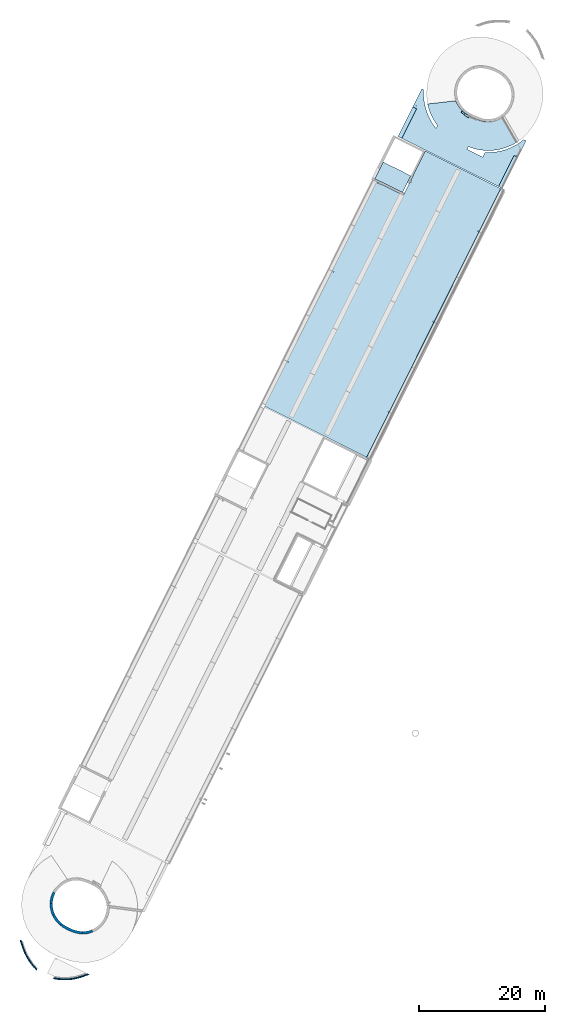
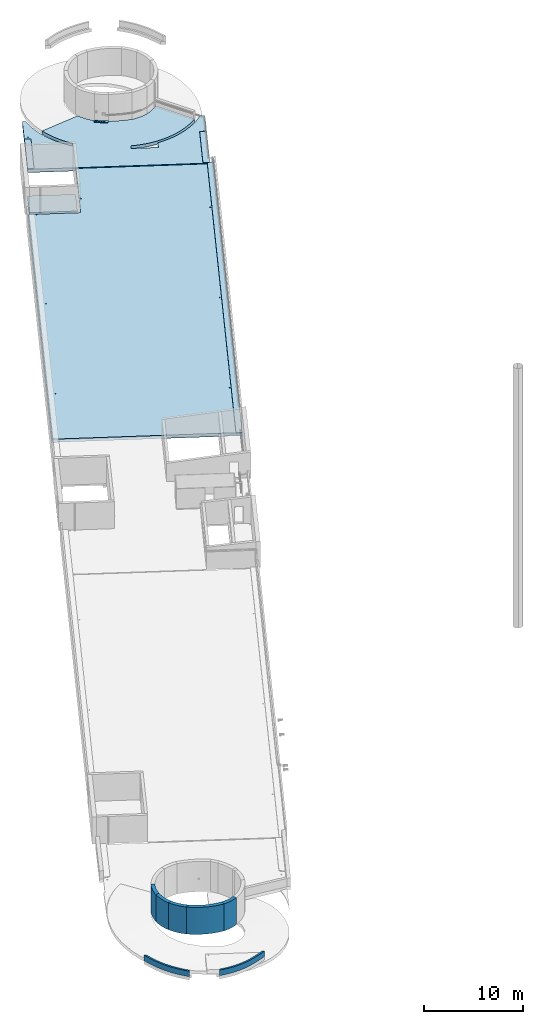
# One storey, part 3 of 34: 7 slabs, 7 walls, 17 openings.
"""IFC2X3 building model written with IfcOpenShell, lengths in metres."""

from ifc_helpers import new_model, entity, si_unit, converted_unit, derived_unit, direction, frame, frame_2d, origin, origin_2d_with_axis, place, context, subcontext, project, spatial, polyline, circle_curve, parameter, trimmed, segment, composite_curve, rectangle, circle, outline, extrude, material, layer, layer_set, layer_usage, type_object, element, save


model = new_model("IFC2X3")

# Units and contexts
model_context = context("Model", 3, precision=1e-05, world=origin(), true_north=direction((0.894925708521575, 0.446215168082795)))
context_of_model = context(None, 3, precision=1e-05, world=origin(), true_north=direction((0.894925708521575, 0.446215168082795)))
body_context = subcontext(model_context, "Body", "Model", "MODEL_VIEW")
ifc_project = project(units=[si_unit("LENGTHUNIT", "METRE"), si_unit("AREAUNIT", "SQUARE_METRE"), si_unit("VOLUMEUNIT", "CUBIC_METRE"), converted_unit("PLANEANGLEUNIT", "DEGREE", entity("IfcRatioMeasure", 0.0174532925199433), si_unit("PLANEANGLEUNIT", "RADIAN"), dimensions=[0, 0, 0, 0, 0, 0, 0]), si_unit("MASSUNIT", "GRAM", prefix="KILO"), si_unit("TIMEUNIT", "SECOND"), si_unit("FREQUENCYUNIT", "HERTZ"), si_unit("THERMODYNAMICTEMPERATUREUNIT", "DEGREE_CELSIUS"), derived_unit("THERMALTRANSMITTANCEUNIT", [(si_unit("MASSUNIT", "GRAM", prefix="KILO"), 1), (si_unit("THERMODYNAMICTEMPERATUREUNIT", "KELVIN"), -1), (si_unit("TIMEUNIT", "SECOND"), -3)]), derived_unit("VOLUMETRICFLOWRATEUNIT", [(si_unit("LENGTHUNIT", "METRE"), 3), (si_unit("TIMEUNIT", "SECOND"), -1)]), si_unit("ELECTRICCURRENTUNIT", "AMPERE"), si_unit("ELECTRICVOLTAGEUNIT", "VOLT"), si_unit("POWERUNIT", "WATT"), si_unit("FORCEUNIT", "NEWTON", prefix="KILO"), si_unit("ILLUMINANCEUNIT", "LUX"), si_unit("LUMINOUSFLUXUNIT", "LUMEN"), si_unit("LUMINOUSINTENSITYUNIT", "CANDELA"), si_unit("PRESSUREUNIT", "PASCAL")], contexts=[model_context, context_of_model])

# Site, building, storey
site_placement = place(None, frame((218.228324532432, 584.720189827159, 0.0), z_axis=(0.0, 0.0, 1.0), x_axis=(0.446215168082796, 0.894925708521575, 0.0)))
site = spatial("IfcSite", under=ifc_project, at=site_placement, Name="Default", CompositionType="ELEMENT")
building_placement = place(site_placement, origin())
building = spatial("IfcBuilding", under=site, at=building_placement, CompositionType="ELEMENT")
storey_placement = place(building_placement, frame((0.0, 0.0, 8.61)))
storey = spatial("IfcBuildingStorey", under=building, at=storey_placement, Name="2 - Piano Secondo", CompositionType="ELEMENT", Elevation=8.61)

# Slab, openings
ifc_material_1 = material(Name="Default - Calcestruzzo")
ifc_layer_1 = layer(ifc_material_1, 0.1)
ifc_material_2 = material(Name="Calcestruzzo")
ifc_layer_2 = layer(ifc_material_2, 0.3)
ifc_layer_set_1 = layer_set([ifc_layer_1, ifc_layer_2], Name="Pavimento:Predal Cementizio - 40 cm")
ifc_layer_usage_1 = layer_usage(ifc_layer_set_1, "AXIS3", "POSITIVE", 0.0)
slab_1_placement = place(storey_placement, frame((11.1942149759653, -13.2110789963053, -0.399999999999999)))
slab_1 = element("IfcSlab", 1, at=slab_1_placement, inside=storey, material=ifc_layer_usage_1, Name="Pavimento:Predal Cementizio - 40 cm", ObjectType="Pavimento:Predal Cementizio - 40 cm", PredefinedType="FLOOR", context=body_context, shape_type="SweptSolid", body=[
    extrude(outline(polyline([(23.8208610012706, -9.67000000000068), (23.8208610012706, 9.67000000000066), (-15.9908610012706, 9.67000000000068), (-15.9908610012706, 4.34000000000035), (-23.8208610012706, 4.34000000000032), (-23.8208610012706, -9.67000000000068), (23.8208610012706, -9.67000000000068)])), frame((23.8208610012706, 9.67000000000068, 0.399999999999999), z_axis=(0.0, 0.0, -1.0), x_axis=(-1.0, 0.0, 0.0)), (0.0, 0.0, 1.0), 0.4),
])
opening_1_placement = place(slab_1_placement, frame((42.3017220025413, 13.860000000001, 0.399999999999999)))
element("IfcOpeningElement", 2, at=opening_1_placement, cuts=slab_1, Name="Pavimento:Predal Cementizio - 40 cm:2", ObjectType="Opening", context=body_context, shape_type="SweptSolid", body=[
    extrude(circle(Radius=0.085, at=origin_2d_with_axis()), frame((0.0, 0.0, 0.0), z_axis=(0.0, 0.0, -1.0), x_axis=(1.0, 0.0, 0.0)), (0.0, 0.0, 1.0), 0.4),
])
opening_2_placement = place(slab_1_placement, frame((39.9641280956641, 0.8300000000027, 0.399999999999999)))
element("IfcOpeningElement", 3, at=opening_2_placement, cuts=slab_1, Name="Pavimento:Predal Cementizio - 40 cm:3", ObjectType="Opening", context=body_context, shape_type="SweptSolid", body=[
    extrude(circle(Radius=0.0600000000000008, at=origin_2d_with_axis()), frame((0.0, 0.0, 0.0), z_axis=(0.0, 0.0, -1.0), x_axis=(1.0, 0.0, 0.0)), (0.0, 0.0, 1.0), 0.4),
])
opening_3_placement = place(slab_1_placement, frame((23.9722811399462, 0.830000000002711, 0.399999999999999)))
element("IfcOpeningElement", 4, at=opening_3_placement, cuts=slab_1, Name="Pavimento:Predal Cementizio - 40 cm:4", ObjectType="Opening", context=body_context, shape_type="SweptSolid", body=[
    extrude(circle(Radius=0.0600000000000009, at=origin_2d_with_axis()), frame((0.0, 0.0, 0.0), z_axis=(0.0, 0.0, -1.0), x_axis=(1.0, 0.0, 0.0)), (0.0, 0.0, 1.0), 0.4),
])
opening_4_placement = place(slab_1_placement, frame((7.98161454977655, 0.830000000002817, 0.399999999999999)))
element("IfcOpeningElement", 5, at=opening_4_placement, cuts=slab_1, Name="Pavimento:Predal Cementizio - 40 cm:5", ObjectType="Opening", context=body_context, shape_type="SweptSolid", body=[
    extrude(circle(Radius=0.0600000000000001, at=origin_2d_with_axis()), frame((0.0, 0.0, 0.0), z_axis=(0.0, 0.0, -1.0), x_axis=(1.0, 0.0, 0.0)), (0.0, 0.0, 1.0), 0.4),
])
opening_5_placement = place(slab_1_placement, frame((7.98161454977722, 18.5100000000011, 0.399999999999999)))
element("IfcOpeningElement", 6, at=opening_5_placement, cuts=slab_1, Name="Pavimento:Predal Cementizio - 40 cm:6", ObjectType="Opening", context=body_context, shape_type="SweptSolid", body=[
    extrude(circle(Radius=0.0600000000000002, at=origin_2d_with_axis()), frame((0.0, 0.0, 0.0), z_axis=(0.0, 0.0, -1.0), x_axis=(1.0, 0.0, 0.0)), (0.0, 0.0, 1.0), 0.4),
])
opening_6_placement = place(slab_1_placement, frame((23.9722811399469, 18.5100000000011, 0.399999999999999)))
element("IfcOpeningElement", 7, at=opening_6_placement, cuts=slab_1, Name="Pavimento:Predal Cementizio - 40 cm:7", ObjectType="Opening", context=body_context, shape_type="SweptSolid", body=[
    extrude(circle(Radius=0.0600000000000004, at=origin_2d_with_axis()), frame((0.0, 0.0, 0.0), z_axis=(0.0, 0.0, -1.0), x_axis=(1.0, 0.0, 0.0)), (0.0, 0.0, 1.0), 0.4),
])
opening_7_placement = place(slab_1_placement, frame((39.6992220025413, 18.510000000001, 0.399999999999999)))
element("IfcOpeningElement", 8, at=opening_7_placement, cuts=slab_1, Name="Pavimento:Predal Cementizio - 40 cm:8", ObjectType="Opening", context=body_context, shape_type="SweptSolid", body=[
    extrude(circle(Radius=0.0599999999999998, at=origin_2d_with_axis()), frame((0.0, 0.0, 0.0), z_axis=(0.0, 0.0, -1.0), x_axis=(1.0, 0.0, 0.0)), (0.0, 0.0, 1.0), 0.4),
])

ifc_layer_3 = layer(ifc_material_1, 0.1)
ifc_layer_4 = layer(ifc_material_2, 0.3)
ifc_layer_set_2 = layer_set([ifc_layer_3, ifc_layer_4], Name="Pavimento:In opera Cementizio - 40 cm")
ifc_layer_usage_2 = layer_usage(ifc_layer_set_2, "AXIS3", "POSITIVE", 0.0)
slab_2_placement = place(storey_placement, frame((58.9659369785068, -12.8010789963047, -0.399999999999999)))
slab_2 = element("IfcSlab", 9, at=slab_2_placement, inside=storey, material=ifc_layer_usage_2, Name="Pavimento:In opera Cementizio - 40 cm", ObjectType="Pavimento:In opera Cementizio - 40 cm", PredefinedType="FLOOR", context=body_context, shape_type="SweptSolid", body=[
    extrude(outline(composite_curve([segment(polyline([(5.23557605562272, -9.25999853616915), (5.23557605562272, 9.25999853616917)]), True, "CONTINUOUS"), segment(polyline([(5.23557605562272, 9.25999853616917), (2.16597680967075, 9.2482542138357)]), True, "CONTINUOUS"), segment(polyline([(2.16597680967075, 9.2482542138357), (-3.23441502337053, 9.25809498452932)]), True, "CONTINUOUS"), segment(polyline([(-3.23441502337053, 9.25809498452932), (-3.23441502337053, 8.91658000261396)]), True, "CONTINUOUS"), segment(trimmed(circle_curve(frame_2d((-7.00685209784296, 0.21497279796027), x_axis=(-1.0, 0.0)), 9.48415781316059), [parameter(232.209278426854)], [parameter(246.561658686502)], True, "PARAMETER"), False, "CONTINUOUS"), segment(trimmed(circle_curve(frame_2d((-6.89135073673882, 0.575748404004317), x_axis=(-1.0, 0.0)), 9.12919934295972), [parameter(204.903689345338)], [parameter(231.394611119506)], True, "PARAMETER"), False, "CONTINUOUS"), segment(polyline([(1.3889873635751, 4.42000146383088), (0.890051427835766, 4.42000146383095)]), True, "CONTINUOUS"), segment(trimmed(circle_curve(frame_2d((-6.89135073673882, 0.575748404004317), x_axis=(-1.0, 0.0)), 8.67919934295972), [parameter(206.290794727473)], [parameter(231.379488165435)], True, "PARAMETER"), True, "CONTINUOUS"), segment(polyline([(-1.47414740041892, 7.35678145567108), (-3.93807030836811, 3.56563351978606)]), True, "CONTINUOUS"), segment(trimmed(circle_curve(frame_2d((-7.1221888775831, 0.559388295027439), x_axis=(-1.0, 0.0)), 4.37905485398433), [parameter(198.450284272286)], [parameter(223.354121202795)], True, "PARAMETER"), False, "CONTINUOUS"), segment(trimmed(circle_curve(frame_2d((-8.01100284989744, 0.416483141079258), x_axis=(-1.0, 0.0)), 5.26942505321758), [parameter(181.402417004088)], [parameter(196.865483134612)], True, "PARAMETER"), False, "CONTINUOUS"), segment(trimmed(circle_curve(frame_2d((-17.7015116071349, 0.726641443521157), x_axis=(-1.0, 0.0)), 14.9594527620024), [parameter(169.929344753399)], [parameter(179.30600254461)], True, "PARAMETER"), False, "CONTINUOUS"), segment(trimmed(circle_curve(frame_2d((-7.20668540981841, -0.473088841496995), x_axis=(-1.0, 0.0)), 4.4646796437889), [parameter(138.042521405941)], [parameter(161.507401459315)], True, "PARAMETER"), False, "CONTINUOUS"), segment(trimmed(circle_curve(frame_2d((-6.87403538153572, -0.666890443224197), x_axis=(-1.0, 0.0)), 4.08848524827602), [parameter(117.962077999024)], [parameter(136.945388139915)], True, "PARAMETER"), False, "CONTINUOUS"), segment(trimmed(circle_curve(frame_2d((-6.95227041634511, -0.119662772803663), x_axis=(-1.0, 0.0)), 4.61232406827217), [parameter(111.851191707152)], [parameter(115.632421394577)], True, "PARAMETER"), False, "CONTINUOUS"), segment(polyline([(-5.23557605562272, -4.40060820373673), (-2.70753153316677, -8.23115231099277)]), True, "CONTINUOUS"), segment(trimmed(circle_curve(frame_2d((-6.70481636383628, -0.820421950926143), x_axis=(-1.0, 0.0)), 8.42004812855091), [parameter(118.342045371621)], [parameter(156.966992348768)], True, "PARAMETER"), True, "CONTINUOUS"), segment(trimmed(circle_curve(frame_2d((-6.78323813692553, -0.767575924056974), x_axis=(-1.0, 0.0)), 8.51291361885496), [parameter(156.846182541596)], [parameter(175.334526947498)], True, "PARAMETER"), True, "CONTINUOUS"), segment(polyline([(1.70146864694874, -1.45999853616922), (2.16557605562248, -1.45999853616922)]), True, "CONTINUOUS"), segment(polyline([(2.16557605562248, -1.45999853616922), (2.16557605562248, -4.23999853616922)]), True, "CONTINUOUS"), segment(polyline([(2.16557605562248, -4.23999853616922), (1.31676299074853, -4.23999853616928)]), True, "CONTINUOUS"), segment(trimmed(circle_curve(frame_2d((-6.70481636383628, -0.820421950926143), x_axis=(-1.0, 0.0)), 8.72004812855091), [parameter(113.451934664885)], [parameter(156.911585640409)], True, "PARAMETER"), False, "CONTINUOUS"), segment(polyline([(-3.2344150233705, -8.82014406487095), (-3.2344150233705, -9.25999853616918)]), True, "CONTINUOUS"), segment(polyline([(-3.2344150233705, -9.25999853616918), (5.23557605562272, -9.25999853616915)]), True, "CONTINUOUS")], self_intersect=False)), frame((5.23557605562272, 9.25999853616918, 0.399999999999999), z_axis=(0.0, 0.0, -1.0), x_axis=(-1.0, 0.0, 0.0)), (0.0, 0.0, 1.0), 0.4),
])
opening_8_placement = place(slab_2_placement, frame((7.96611948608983, 10.7774974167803, 0.399999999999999)))
element("IfcOpeningElement", 10, at=opening_8_placement, cuts=slab_2, Name="Pavimento:In opera Cementizio - 40 cm:2", ObjectType="Opening", context=body_context, shape_type="SweptSolid", body=[
    extrude(circle(Radius=0.085, at=origin_2d_with_axis()), frame((0.0, 0.0, 0.0), z_axis=(0.0, 0.0, -1.0), x_axis=(1.0, 0.0, 0.0)), (0.0, 0.0, 1.0), 0.4),
])
opening_9_placement = place(slab_2_placement, frame((5.6642426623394, 18.1000000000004, 0.399999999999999)))
element("IfcOpeningElement", 11, at=opening_9_placement, cuts=slab_2, Name="Pavimento:In opera Cementizio - 40 cm:3", ObjectType="Opening", context=body_context, shape_type="SweptSolid", body=[
    extrude(circle(Radius=0.0600000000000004, at=origin_2d_with_axis()), frame((0.0, 0.0, 0.0), z_axis=(0.0, 0.0, -1.0), x_axis=(1.0, 0.0, 0.0)), (0.0, 0.0, 1.0), 0.4),
])
opening_10_placement = place(slab_2_placement, frame((7.88933627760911, 10.2774582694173, 0.399999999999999)))
element("IfcOpeningElement", 12, at=opening_10_placement, cuts=slab_2, Name="Pavimento:In opera Cementizio - 40 cm:4", ObjectType="Opening", context=body_context, shape_type="SweptSolid", body=[
    extrude(circle(Radius=0.08, at=origin_2d_with_axis()), frame((0.0, 0.0, 0.0), z_axis=(0.0, 0.0, -1.0), x_axis=(1.0, 0.0, 0.0)), (0.0, 0.0, 1.0), 0.4),
])
opening_11_placement = place(slab_2_placement, frame((5.62830631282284, 0.224251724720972, 0.399999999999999)))
element("IfcOpeningElement", 13, at=opening_11_placement, cuts=slab_2, Name="Pavimento:In opera Cementizio - 40 cm:5", ObjectType="Opening", context=body_context, shape_type="SweptSolid", body=[
    extrude(circle(Radius=0.085, at=origin_2d_with_axis()), frame((0.0, 0.0, 0.0), z_axis=(0.0, 0.0, -1.0), x_axis=(1.0, 0.0, 0.0)), (0.0, 0.0, 1.0), 0.4),
])
opening_12_placement = place(slab_2_placement, frame((8.00451109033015, 11.0275169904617, 0.399999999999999)))
element("IfcOpeningElement", 14, at=opening_12_placement, cuts=slab_2, Name="Pavimento:In opera Cementizio - 40 cm:6", ObjectType="Opening", context=body_context, shape_type="SweptSolid", body=[
    extrude(circle(Radius=0.0749999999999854, at=origin_2d_with_axis()), frame((0.0, 0.0, 0.0), z_axis=(0.0, 0.0, -1.0), x_axis=(1.0, 0.0, 0.0)), (0.0, 0.0, 1.0), 0.4),
])
opening_13_placement = place(slab_2_placement, frame((7.92845572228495, 10.5274595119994, 0.399999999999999)))
element("IfcOpeningElement", 15, at=opening_13_placement, cuts=slab_2, Name="Pavimento:In opera Cementizio - 40 cm:7", ObjectType="Opening", context=body_context, shape_type="SweptSolid", body=[
    extrude(circle(Radius=0.0449999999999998, at=origin_2d_with_axis()), frame((0.0, 0.0, 0.0), z_axis=(0.0, 0.0, -1.0), x_axis=(1.0, 0.0, 0.0)), (0.0, 0.0, 1.0), 0.4),
])

# Slabs
ifc_material_3 = material(Name="Asfalto, bitume")
ifc_layer_5 = layer(ifc_material_3, 0.01)
ifc_material_4 = material(Name="Sabbia e Calcestruzzo")
ifc_layer_6 = layer(ifc_material_4, 0.09)
ifc_layer_set_3 = layer_set([ifc_layer_5, ifc_layer_6], Name="Pavimento:Marciapiede - 10 cm")
ifc_layer_usage_3 = layer_usage(ifc_layer_set_3, "AXIS3", "POSITIVE", 0.0)
slab_3_placement = place(storey_placement, origin())
element("IfcSlab", 16, at=slab_3_placement, inside=storey, material=ifc_layer_usage_3, Name="Pavimento:Marciapiede - 10 cm", ObjectType="Pavimento:Marciapiede - 10 cm", PredefinedType="FLOOR", context=body_context, shape_type="SweptSolid", body=[
    extrude(outline(polyline([(-0.403066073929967, -2.7157200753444), (0.276933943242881, -2.7157200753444), (0.265189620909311, 0.35387917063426), (0.265189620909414, 2.53817037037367), (-0.404247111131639, 2.53939060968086), (-0.403066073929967, -2.7157200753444)])), frame((61.6816570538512, 5.4419841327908, 0.100000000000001), z_axis=(0.0, 0.0, -1.0), x_axis=(0.0, 1.0, 0.0)), (0.0, 0.0, 1.0), 0.1),
])
ifc_layer_usage_4 = layer_usage(ifc_layer_set_3, "AXIS3", "POSITIVE", 0.0)
slab_4_placement = place(storey_placement, origin())
element("IfcSlab", 17, at=slab_4_placement, inside=storey, material=ifc_layer_usage_4, Name="Pavimento:Marciapiede - 10 cm", ObjectType="Pavimento:Marciapiede - 10 cm", PredefinedType="FLOOR", context=body_context, shape_type="SweptSolid", body=[
    extrude(outline(polyline([(-0.339999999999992, -2.75187604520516), (0.340000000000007, -2.75187604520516), (0.33999999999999, 2.75205162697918), (-0.340000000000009, 2.75170046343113), (-0.339999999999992, -2.75187604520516)])), frame((61.717813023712, -12.4610789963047, 0.1), z_axis=(0.0, 0.0, -1.0), x_axis=(0.0, 1.0, 0.0)), (0.0, 0.0, 1.0), 0.1),
])
ifc_layer_usage_5 = layer_usage(ifc_layer_set_3, "AXIS3", "POSITIVE", 0.0)
slab_5_placement = place(storey_placement, origin())
element("IfcSlab", 18, at=slab_5_placement, inside=storey, material=ifc_layer_usage_5, Name="Pavimento:Marciapiede - 10 cm", ObjectType="Pavimento:Marciapiede - 10 cm", PredefinedType="FLOOR", context=body_context, shape_type="SweptSolid", body=[
    extrude(rectangle(XDim=0.649999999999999, YDim=47.8717220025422, at=frame_2d((-1.08246744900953e-15, 0.0), x_axis=(1.0, 0.0))), frame((35.0300759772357, -12.8760789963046, 0.1), z_axis=(0.0, 0.0, -1.0), x_axis=(0.0, 1.0, 0.0)), (0.0, 0.0, 1.0), 0.1),
])
ifc_layer_7 = layer(ifc_material_3, 0.01)
ifc_layer_8 = layer(ifc_material_4, 0.05)
ifc_layer_9 = layer(ifc_material_2, 0.35)
ifc_layer_set_4 = layer_set([ifc_layer_7, ifc_layer_8, ifc_layer_9], Name="Pavimento:Solaio scala P2 41 cm")
ifc_layer_usage_6 = layer_usage(ifc_layer_set_4, "AXIS3", "POSITIVE", 0.0)
slab_6_placement = place(storey_placement, origin())
element("IfcSlab", 19, at=slab_6_placement, inside=storey, material=ifc_layer_usage_6, Name="Pavimento:Solaio scala P2 41 cm", ObjectType="Pavimento:Solaio scala P2 41 cm", PredefinedType="FLOOR", context=body_context, shape_type="SweptSolid", body=[
    extrude(outline(polyline([(-1.52750000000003, -2.23245950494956), (3.36250000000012, -2.23245950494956), (3.36250000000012, 0.747540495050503), (-0.317500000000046, 0.747540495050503), (-0.317500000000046, 0.737378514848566), (-1.51750000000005, 0.737378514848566), (-1.51750000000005, 0.747540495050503), (-1.52750000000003, 0.747540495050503), (-1.52750000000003, -2.23245950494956)])), frame((53.5483964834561, 2.62642100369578, 0.0), z_axis=(0.0, 0.0, -1.0), x_axis=(0.0, 1.0, 0.0)), (0.0, 0.0, 1.0), 0.41),
])

# Slab, openings
ifc_layer_usage_7 = layer_usage(ifc_layer_set_3, "AXIS3", "POSITIVE", 0.0)
slab_7_placement = place(storey_placement, frame((66.6382605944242, -2.99563156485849, 0.0)))
slab_7 = element("IfcSlab", 20, at=slab_7_placement, inside=storey, material=ifc_layer_usage_7, Name="Pavimento:Marciapiede - 10 cm", ObjectType="Pavimento:Marciapiede - 10 cm", PredefinedType="FLOOR", context=body_context, shape_type="SweptSolid", body=[
    extrude(outline(composite_curve([segment(trimmed(circle_curve(frame_2d((-5.30851733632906, -0.853164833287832), x_axis=(-1.0, 0.0)), 5.26942505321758), [parameter(181.40241700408)], [parameter(196.865483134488)], True, "PARAMETER"), False, "CONTINUOUS"), segment(polyline([(-0.0406706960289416, -0.724199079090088), (0.265737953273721, -0.677148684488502)]), True, "CONTINUOUS"), segment(polyline([(0.265737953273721, -0.677148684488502), (0.0505548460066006, 0.724199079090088)]), True, "CONTINUOUS"), segment(polyline([(0.0505548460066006, 0.724199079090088), (-0.265737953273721, 0.675630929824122)]), True, "CONTINUOUS")], self_intersect=False)), frame((0.265737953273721, 0.724199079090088, 0.0999999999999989), z_axis=(0.0, 0.0, -1.0), x_axis=(-1.0, 0.0, 0.0)), (0.0, 0.0, 1.0), 0.1),
])
opening_14_placement = place(slab_7_placement, frame((0.293795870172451, 0.972049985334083, 0.0999999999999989)))
element("IfcOpeningElement", 21, at=opening_14_placement, cuts=slab_7, Name="Pavimento:Marciapiede - 10 cm:2", ObjectType="Opening", context=body_context, shape_type="SweptSolid", body=[
    extrude(circle(Radius=0.085, at=origin_2d_with_axis()), frame((0.0, 0.0, 0.0), z_axis=(0.0, 0.0, -1.0), x_axis=(1.0, 0.0, 0.0)), (0.0, 0.0, 1.0), 0.1),
])
opening_15_placement = place(slab_7_placement, frame((0.217012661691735, 0.472010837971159, 0.0999999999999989)))
element("IfcOpeningElement", 22, at=opening_15_placement, cuts=slab_7, Name="Pavimento:Marciapiede - 10 cm:3", ObjectType="Opening", context=body_context, shape_type="SweptSolid", body=[
    extrude(circle(Radius=0.0750000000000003, at=origin_2d_with_axis()), frame((0.0, 0.0, 0.0), z_axis=(0.0, 0.0, -1.0), x_axis=(1.0, 0.0, 0.0)), (0.0, 0.0, 1.0), 0.1),
])
opening_16_placement = place(slab_7_placement, frame((0.332187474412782, 1.2220695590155, 0.0999999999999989)))
element("IfcOpeningElement", 23, at=opening_16_placement, cuts=slab_7, Name="Pavimento:Marciapiede - 10 cm:4", ObjectType="Opening", context=body_context, shape_type="SweptSolid", body=[
    extrude(circle(Radius=0.0749999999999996, at=origin_2d_with_axis()), frame((0.0, 0.0, 0.0), z_axis=(0.0, 0.0, -1.0), x_axis=(1.0, 0.0, 0.0)), (0.0, 0.0, 1.0), 0.1),
])
opening_17_placement = place(slab_7_placement, frame((0.25613210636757, 0.722012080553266, 0.0999999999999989)))
element("IfcOpeningElement", 24, at=opening_17_placement, cuts=slab_7, Name="Pavimento:Marciapiede - 10 cm:5", ObjectType="Opening", context=body_context, shape_type="SweptSolid", body=[
    extrude(circle(Radius=0.0450000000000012, at=origin_2d_with_axis()), frame((0.0, 0.0, 0.0), z_axis=(0.0, 0.0, -1.0), x_axis=(1.0, 0.0, 0.0)), (0.0, 0.0, 1.0), 0.1),
])

# Walls
ifc_material_5 = material(Name="Intonaco - Bianco")
ifc_layer_10 = layer(ifc_material_5, 0.01)
ifc_layer_11 = layer(ifc_material_1, 0.4)
ifc_layer_set_5 = layer_set([ifc_layer_10, ifc_layer_11], Name="Muro di base:Setto CA intonacato int - 41 cm")
ifc_layer_usage_8 = layer_usage(ifc_layer_set_5, "AXIS2", "POSITIVE", -0.205)
wall_type_1 = type_object("IfcWallType", Name="Muro di base:Setto CA intonacato int - 41 cm", PredefinedType="STANDARD", material=ifc_layer_set_5)
wall_1_placement = place(storey_placement, frame((-76.8061652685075, -2.20537846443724, 0.0), z_axis=(0.0, 0.0, 1.0), x_axis=(-0.797882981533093, 0.602812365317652, 0.0)))
element("IfcWallStandardCase", 25, at=wall_1_placement, inside=storey, type_object=wall_type_1, material=ifc_layer_usage_8, Name="Muro di base:Setto CA intonacato int - 41 cm", ObjectType="Muro di base:Setto CA intonacato int - 41 cm", context=body_context, shape_type="SweptSolid", body=[
    extrude(outline(composite_curve([segment(trimmed(circle_curve(frame_2d((-4.52933797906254, -1.87392733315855), x_axis=(1.0, 0.0)), 5.10668401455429), [parameter(0.0652598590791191)], [parameter(22.4763941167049)], True, "PARAMETER"), True, "CONTINUOUS"), segment(polyline([(0.189427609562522, 0.0783720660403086), (-0.185419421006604, -0.088090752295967)]), True, "CONTINUOUS"), segment(trimmed(circle_curve(frame_2d((-4.52933797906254, -1.87392733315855), x_axis=(1.0, 0.0)), 4.69668401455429), [parameter(0.151491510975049)], [parameter(22.3481466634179)], True, "PARAMETER"), False, "CONTINUOUS"), segment(polyline([(0.167329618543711, -1.86150919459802), (0.577342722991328, -1.86811082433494)]), True, "CONTINUOUS")], self_intersect=False)), origin(), (0.0, 0.0, 1.0), 3.34),
])
ifc_layer_usage_9 = layer_usage(ifc_layer_set_5, "AXIS2", "POSITIVE", -0.205)
wall_2_placement = place(storey_placement, frame((-75.9813236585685, -0.495753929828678, 0.0), z_axis=(0.0, 0.0, 1.0), x_axis=(-0.421109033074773, 0.907010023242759, 0.0)))
element("IfcWallStandardCase", 26, at=wall_2_placement, inside=storey, type_object=wall_type_1, material=ifc_layer_usage_9, Name="Muro di base:Setto CA intonacato int - 41 cm", ObjectType="Muro di base:Setto CA intonacato int - 41 cm", context=body_context, shape_type="SweptSolid", body=[
    extrude(outline(composite_curve([segment(trimmed(circle_curve(frame_2d((-3.71366241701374, -1.82101515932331), x_axis=(1.0, 0.0)), 4.34110744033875), [parameter(359.999999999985)], [parameter(26.1212812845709)], True, "PARAMETER"), True, "CONTINUOUS"), segment(polyline([(0.184062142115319, 0.0902559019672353), (-0.180979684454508, -0.0965562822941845)]), True, "CONTINUOUS"), segment(trimmed(circle_curve(frame_2d((-3.71366241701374, -1.82101515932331), x_axis=(1.0, 0.0)), 3.93110744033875), [parameter(0.0229809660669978)], [parameter(26.0190522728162)], True, "PARAMETER"), False, "CONTINUOUS"), segment(polyline([(0.217444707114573, -1.81943841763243), (0.627445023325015, -1.82101515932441)]), True, "CONTINUOUS")], self_intersect=False)), origin(), (0.0, 0.0, 1.0), 3.34),
])
ifc_layer_usage_10 = layer_usage(ifc_layer_set_5, "AXIS2", "POSITIVE", -0.205)
wall_3_placement = place(storey_placement, frame((-74.5089714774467, 0.653595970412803, 0.0), z_axis=(0.0, 0.0, 1.0), x_axis=(0.0272697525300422, 0.999628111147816, 0.0)))
element("IfcWallStandardCase", 27, at=wall_3_placement, inside=storey, type_object=wall_type_1, material=ifc_layer_usage_10, Name="Muro di base:Setto CA intonacato int - 41 cm", ObjectType="Muro di base:Setto CA intonacato int - 41 cm", context=body_context, shape_type="SweptSolid", body=[
    extrude(outline(composite_curve([segment(trimmed(circle_curve(frame_2d((-3.59104673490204, -1.75356267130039), x_axis=(1.0, 0.0)), 4.20132314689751), [parameter(1.26713298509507e-11)], [parameter(26.0269597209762)], True, "PARAMETER"), True, "CONTINUOUS"), segment(polyline([(0.18421047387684, 0.0899527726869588), (-0.183520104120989, -0.0913672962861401)]), True, "CONTINUOUS"), segment(trimmed(circle_curve(frame_2d((-3.59104673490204, -1.75356267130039), x_axis=(1.0, 0.0)), 3.79132314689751), [parameter(0.14633265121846)], [parameter(26.0031728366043)], True, "PARAMETER"), False, "CONTINUOUS"), segment(polyline([(0.200264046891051, -1.74387969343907), (0.610276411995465, -1.75356267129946)]), True, "CONTINUOUS")], self_intersect=False)), origin(), (0.0, 0.0, 1.0), 3.34),
])
ifc_layer_usage_11 = layer_usage(ifc_layer_set_5, "AXIS2", "POSITIVE", -0.205)
wall_4_placement = place(storey_placement, frame((-75.4992018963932, -7.1415728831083, 0.0), z_axis=(0.0, 0.0, 1.0), x_axis=(-0.892606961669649, -0.45083568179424, 0.0)))
element("IfcWallStandardCase", 28, at=wall_4_placement, inside=storey, type_object=wall_type_1, material=ifc_layer_usage_11, Name="Muro di base:Setto CA intonacato int - 41 cm", ObjectType="Muro di base:Setto CA intonacato int - 41 cm", context=body_context, shape_type="SweptSolid", body=[
    extrude(outline(composite_curve([segment(trimmed(circle_curve(frame_2d((-3.75001635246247, -1.58330388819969), x_axis=(1.0, 0.0)), 4.27556185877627), [parameter(1.02286638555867e-11)], [parameter(22.8900803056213)], True, "PARAMETER"), True, "CONTINUOUS"), segment(polyline([(0.188856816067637, 0.079737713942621), (-0.188578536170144, -0.0803969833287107)]), True, "CONTINUOUS"), segment(trimmed(circle_curve(frame_2d((-3.75001635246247, -1.58330388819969), x_axis=(1.0, 0.0)), 3.86556185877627), [parameter(0.288328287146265)], [parameter(22.8794736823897)], True, "PARAMETER"), False, "CONTINUOUS"), segment(polyline([(0.115496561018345, -1.56385138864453), (0.525545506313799, -1.58330388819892)]), True, "CONTINUOUS")], self_intersect=False)), origin(), (0.0, 0.0, 1.0), 3.34),
])
ifc_layer_usage_12 = layer_usage(ifc_layer_set_5, "AXIS2", "POSITIVE", -0.205)
wall_5_placement = place(storey_placement, frame((-76.4911375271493, -5.89072972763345, 0.0), z_axis=(0.0, 0.0, 1.0), x_axis=(-0.97942685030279, 0.201799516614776, 0.0)))
element("IfcWallStandardCase", 29, at=wall_5_placement, inside=storey, type_object=wall_type_1, material=ifc_layer_usage_12, Name="Muro di base:Setto CA intonacato int - 41 cm", ObjectType="Muro di base:Setto CA intonacato int - 41 cm", context=body_context, shape_type="SweptSolid", body=[
    extrude(outline(composite_curve([segment(trimmed(circle_curve(frame_2d((-5.48595074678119, -3.55652040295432), x_axis=(1.0, 0.0)), 6.74292726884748), [parameter(3.30777686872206e-12)], [parameter(32.9551835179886)], True, "PARAMETER"), True, "CONTINUOUS"), segment(polyline([(0.172014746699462, 0.11151648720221), (-0.161255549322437, -0.128169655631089)]), True, "CONTINUOUS"), segment(trimmed(circle_curve(frame_2d((-5.48595074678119, -3.55652040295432), x_axis=(1.0, 0.0)), 6.33292726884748), [parameter(0.096114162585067)], [parameter(32.7758079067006)], True, "PARAMETER"), False, "CONTINUOUS"), segment(polyline([(0.846967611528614, -3.54589686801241), (1.2569765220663, -3.55652040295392)]), True, "CONTINUOUS")], self_intersect=False)), origin(), (0.0, 0.0, 1.0), 3.34),
])
ifc_material_6 = material(Name="Calcestruzzo, gettato in opera")
wall_type_2 = type_object("IfcWallType", Name="Muri 2:Muri 2", PredefinedType="NOTDEFINED", material=ifc_material_6)
wall_6_placement = place(storey_placement, frame((-85.0499797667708, -1.97107899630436, 0.340000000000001), z_axis=(0.0, 0.0, 1.0), x_axis=(0.0, 1.0, 0.0)))
element("IfcWall", 30, at=wall_6_placement, inside=storey, type_object=wall_type_2, material=ifc_material_6, Name="Muri 2:Muri 2", ObjectType="Muri 2:Muri 2", context=body_context, shape_type="SweptSolid", body=[
    extrude(outline(composite_curve([segment(trimmed(circle_curve(frame_2d((7.11425327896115, -5.47532772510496), x_axis=(1.0, 0.0)), 9.33329107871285), [parameter(137.924812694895)], [parameter(161.516654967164)], True, "PARAMETER"), True, "CONTINUOUS"), segment(polyline([(-1.73758791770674, -2.51640396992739), (-1.52645133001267, -2.51640396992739)]), True, "CONTINUOUS"), segment(trimmed(circle_curve(frame_2d((7.11425327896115, -5.47532772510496), x_axis=(1.0, 0.0)), 9.13329107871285), [parameter(137.945163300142)], [parameter(161.096739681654)], True, "PARAMETER"), False, "CONTINUOUS"), segment(trimmed(circle_curve(frame_2d((21.516650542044, -19.7766962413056), x_axis=(1.0, 0.0)), 29.4228237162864), [parameter(133.207826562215)], [parameter(136.05299329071)], True, "PARAMETER"), False, "CONTINUOUS"), segment(polyline([(1.37241208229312, 1.66886768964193), (1.37241208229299, 1.94245065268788)]), True, "CONTINUOUS"), segment(trimmed(circle_curve(frame_2d((21.516650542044, -19.7766962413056), x_axis=(1.0, 0.0)), 29.6228237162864), [parameter(132.845537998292)], [parameter(136.059357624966)], True, "PARAMETER"), True, "CONTINUOUS")], self_intersect=False)), frame((2.5164039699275, -1.73758791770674, 0.0), z_axis=(0.0, 0.0, 1.0), x_axis=(0.0, -1.0, 0.0)), (0.0, 0.0, 1.0), 0.690000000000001),
])
wall_type_3 = type_object("IfcWallType", Name="Muri 3:Muri 3", PredefinedType="NOTDEFINED", material=ifc_material_6)
wall_7_placement = place(storey_placement, frame((-85.0499797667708, -9.76051584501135, 0.340000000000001), z_axis=(0.0, 0.0, 1.0), x_axis=(0.0, 1.0, 0.0)))
element("IfcWall", 31, at=wall_7_placement, inside=storey, type_object=wall_type_3, material=ifc_material_6, Name="Muri 3:Muri 3", ObjectType="Muri 3:Muri 3", context=body_context, shape_type="SweptSolid", body=[
    extrude(outline(composite_curve([segment(trimmed(circle_curve(frame_2d((6.0878275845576, 4.62860947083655), x_axis=(1.0, 0.0)), 8.0724142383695), [parameter(193.491985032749)], [parameter(223.558768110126)], True, "PARAMETER"), True, "CONTINUOUS"), segment(trimmed(circle_curve(frame_2d((12.6376803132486, 10.7001185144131), x_axis=(1.0, 0.0)), 17.0031286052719), [parameter(223.175749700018)], [parameter(228.396997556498)], True, "PARAMETER"), True, "CONTINUOUS"), segment(polyline([(1.34819125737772, -2.01419700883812), (1.34819125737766, -1.74546575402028)]), True, "CONTINUOUS"), segment(trimmed(circle_curve(frame_2d((12.6376803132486, 10.7001185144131), x_axis=(1.0, 0.0)), 16.8031286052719), [parameter(223.173462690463)], [parameter(227.78857645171)], True, "PARAMETER"), False, "CONTINUOUS"), segment(trimmed(circle_curve(frame_2d((6.0878275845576, 4.62860947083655), x_axis=(1.0, 0.0)), 7.8724142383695), [parameter(193.841488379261)], [parameter(223.563617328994)], True, "PARAMETER"), False, "CONTINUOUS"), segment(polyline([(-1.55598198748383, 2.74523983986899), (-1.76180874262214, 2.74523983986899)]), True, "CONTINUOUS")], self_intersect=False)), frame((2.01419700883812, -1.76180874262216, 0.0), z_axis=(0.0, 0.0, 1.0), x_axis=(0.0, -1.0, 0.0)), (0.0, 0.0, 1.0), 0.689999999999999),
])

save(model, "model.ifc")
